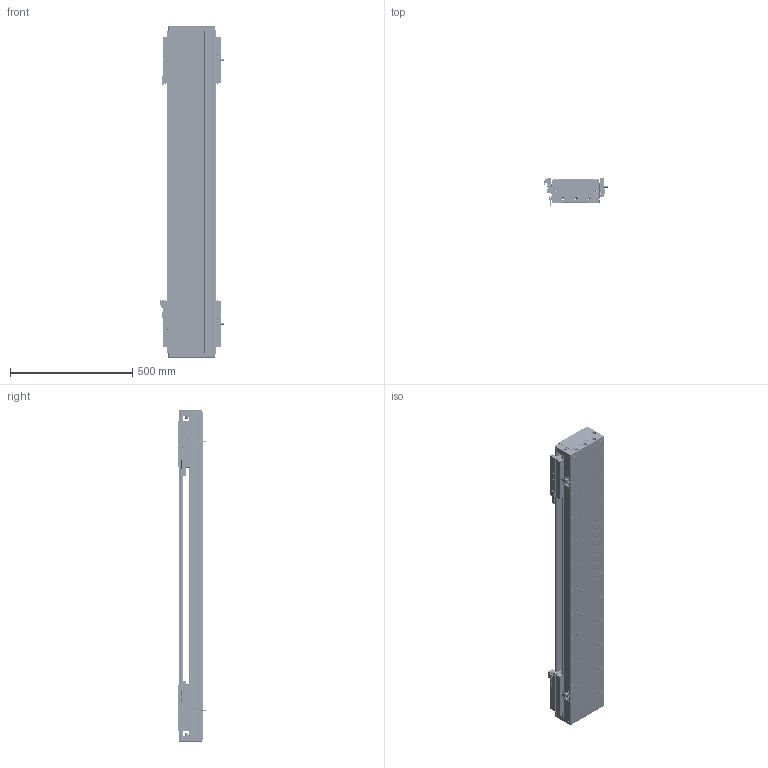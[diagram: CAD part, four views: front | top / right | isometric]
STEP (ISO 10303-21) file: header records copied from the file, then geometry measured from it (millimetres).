
FILE_DESCRIPTION (( 'STEP AP203' ), '1' );
FILE_NAME ('DA-C195-2-C2-T860-C010-0.2 眻盄萇儂.STEP', '2025-08-14T02:00:31', ( '' ), ( '' ), 'SwSTEP 2.0', 'SolidWorks 2019', '' );
FILE_SCHEMA (( 'CONFIG_CONTROL_DESIGN' ));
Length unit declared in the file: millimetre
Products named in the file (16): LMT黍杅芛; 66156-0001-005-00 光电感应片(默认); 葩璃 DA95-GT-T-00; MS200 棠掑喜S315-T240; CU195-C2賑輸-俋楷; PM-T45ㄗ侂狟ㄘ; DA-C195-2-C2-T860-C010-0.2 眻盄萇儂; PM-Y65嫖萇羲壽郪璃; DKW-KGZ-ZJ-00 中间光电开关支架; DKW-GYP-ZJ-00 笢潔嫖萇覜茼え; IU-CU195-L-00 菁釱(L1320); 66156-0001-003-00 裔啣; DKW168-HXJ-ZJ-00 笢潔滅袉砎蝶; IU-CU195-L 菁釱絳寢; DA195-DG-H-00  端盖（压铸镂空版）; DA95-HXJ-00 遣喳砎蝶
Assembly tree (28 placements, depth 3):
  DA-C195-2-C2-T860-C010-0.2 眻盄萇儂
    IU-CU195-L 菁釱絳寢
      IU-CU195-L-00 菁釱(L1320)
      葩璃 DA95-GT-T-00  x4
    LMT黍杅芛  x2
    MS200 棠掑喜S315-T240
    PM-T45ㄗ侂狟ㄘ  x4
    66156-0001-005-00 光电感应片(默认)  x2
    DA195-DG-H-00  端盖（压铸镂空版）  x2
    DA95-HXJ-00 遣喳砎蝶  x4
    PM-Y65嫖萇羲壽郪璃
    66156-0001-003-00 裔啣
    DKW168-HXJ-ZJ-00 笢潔滅袉砎蝶
    DKW-GYP-ZJ-00 笢潔嫖萇覜茼え
    DKW-KGZ-ZJ-00 中间光电开关支架
    CU195-C2賑輸-俋楷  x2
Bounding box: 258.2 x 115.6 x 1360 mm (x, y, z)
Volume: 10556912.6 mm3; surface area: 2945545.4 mm2
Topology: 106 solids, 242 shells, 7936 faces, 19992 edges, 12163 vertices
Faces by surface type: cylinder 3258, plane 2862, cone 946, bspline 718, torus 80, sphere 72
Entity records: 158925 total; most frequent: CARTESIAN_POINT 48788, ORIENTED_EDGE 22986, DIRECTION 21882, EDGE_CURVE 11493, AXIS2_PLACEMENT_3D 7991, VERTEX_POINT 7278, VECTOR 5900, LINE 5900
